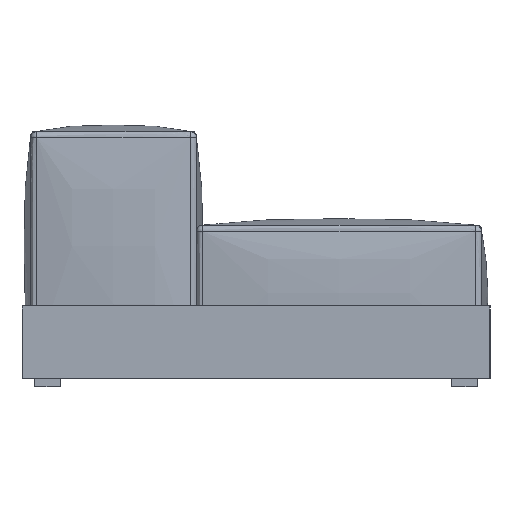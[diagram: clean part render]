
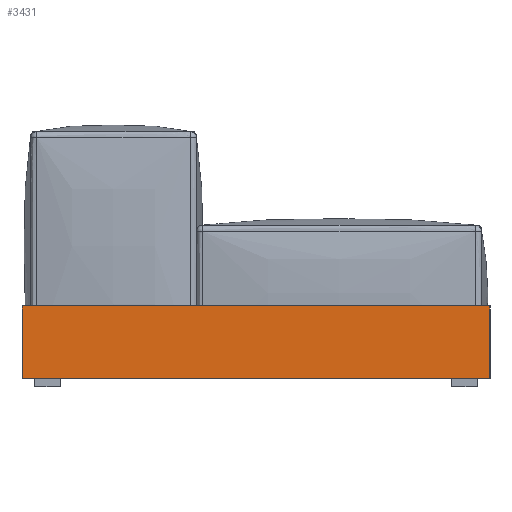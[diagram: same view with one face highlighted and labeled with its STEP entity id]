
A CAD part, left-side view. The second image highlights one B-rep face of the part: STEP entity #3431.
In plain terms, the highlighted planar face has unit normal (-1, 0, 0).
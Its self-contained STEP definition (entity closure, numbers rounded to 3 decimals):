
#122=PLANE('',#3847);
#260=LINE('',#14310,#482);
#261=LINE('',#14312,#483);
#262=LINE('',#14314,#484);
#263=LINE('',#14315,#485);
#482=VECTOR('',#4479,10.);
#483=VECTOR('',#4480,10.);
#484=VECTOR('',#4481,10.);
#485=VECTOR('',#4482,10.);
#1023=FACE_OUTER_BOUND('',#1275,.T.);
#1275=EDGE_LOOP('',(#2879,#2880,#2881,#2882));
#1663=VERTEX_POINT('',#14308);
#1664=VERTEX_POINT('',#14309);
#1665=VERTEX_POINT('',#14311);
#1666=VERTEX_POINT('',#14313);
#2087=EDGE_CURVE('',#1663,#1664,#260,.T.);
#2088=EDGE_CURVE('',#1663,#1665,#261,.T.);
#2089=EDGE_CURVE('',#1666,#1665,#262,.T.);
#2090=EDGE_CURVE('',#1664,#1666,#263,.T.);
#2879=ORIENTED_EDGE('',*,*,#2087,.F.);
#2880=ORIENTED_EDGE('',*,*,#2088,.T.);
#2881=ORIENTED_EDGE('',*,*,#2089,.F.);
#2882=ORIENTED_EDGE('',*,*,#2090,.F.);
#3431=ADVANCED_FACE('',(#1023),#122,.T.);
#3847=AXIS2_PLACEMENT_3D('',#14307,#4477,#4478);
#4477=DIRECTION('center_axis',(-1.,0.,0.));
#4478=DIRECTION('ref_axis',(0.,-1.,0.));
#4479=DIRECTION('',(0.,1.,0.));
#4480=DIRECTION('',(0.,0.,1.));
#4481=DIRECTION('',(0.,-1.,0.));
#4482=DIRECTION('',(0.,0.,1.));
#14307=CARTESIAN_POINT('Origin',(-1500.,550.,0.));
#14308=CARTESIAN_POINT('',(-1500.,-550.,0.));
#14309=CARTESIAN_POINT('',(-1500.,550.,0.));
#14310=CARTESIAN_POINT('',(-1500.,-550.,0.));
#14311=CARTESIAN_POINT('',(-1500.,-550.,170.));
#14312=CARTESIAN_POINT('',(-1500.,-550.,0.));
#14313=CARTESIAN_POINT('',(-1500.,550.,170.));
#14314=CARTESIAN_POINT('',(-1500.,-550.,170.));
#14315=CARTESIAN_POINT('',(-1500.,550.,0.));
